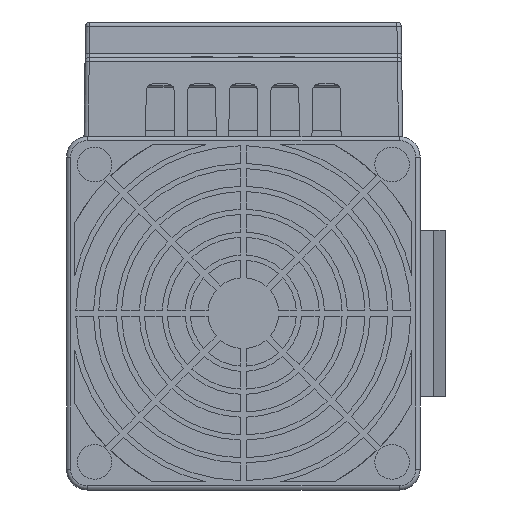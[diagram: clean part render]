
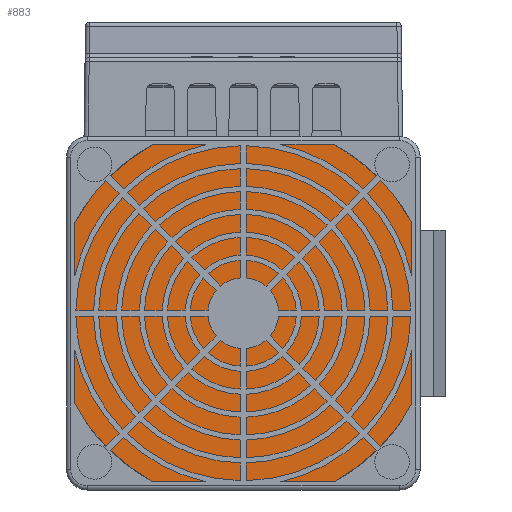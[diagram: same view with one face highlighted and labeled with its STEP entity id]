
A CAD part, front view. The second image highlights one B-rep face of the part: STEP entity #883.
In plain terms, the highlighted planar face has unit normal (0, -1, 0).
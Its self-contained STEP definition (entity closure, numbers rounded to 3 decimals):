
#883=ADVANCED_FACE('',(#2814),#2035,.F.);
#2035=PLANE('',#23053);
#2814=FACE_OUTER_BOUND('',#3930,.T.);
#3930=EDGE_LOOP('',(#10444,#10445,#10446,#10447,#10448,#10449,#10450,#10451));
#5260=LINE('',#30933,#7852);
#5261=LINE('',#30937,#7853);
#5262=LINE('',#30941,#7854);
#5263=LINE('',#30945,#7855);
#7852=VECTOR('',#24816,1.);
#7853=VECTOR('',#24819,1.);
#7854=VECTOR('',#24822,1.);
#7855=VECTOR('',#24825,1.);
#10444=ORIENTED_EDGE('',*,*,#19231,.F.);
#10445=ORIENTED_EDGE('',*,*,#19232,.F.);
#10446=ORIENTED_EDGE('',*,*,#19233,.F.);
#10447=ORIENTED_EDGE('',*,*,#19234,.F.);
#10448=ORIENTED_EDGE('',*,*,#19235,.F.);
#10449=ORIENTED_EDGE('',*,*,#19236,.F.);
#10450=ORIENTED_EDGE('',*,*,#19237,.F.);
#10451=ORIENTED_EDGE('',*,*,#19238,.F.);
#17054=VERTEX_POINT('',#30931);
#17055=VERTEX_POINT('',#30932);
#17056=VERTEX_POINT('',#30934);
#17057=VERTEX_POINT('',#30936);
#17058=VERTEX_POINT('',#30938);
#17059=VERTEX_POINT('',#30940);
#17060=VERTEX_POINT('',#30942);
#17061=VERTEX_POINT('',#30944);
#19231=EDGE_CURVE('',#17054,#17055,#22536,.T.);
#19232=EDGE_CURVE('',#17056,#17054,#5260,.T.);
#19233=EDGE_CURVE('',#17057,#17056,#22537,.T.);
#19234=EDGE_CURVE('',#17058,#17057,#5261,.T.);
#19235=EDGE_CURVE('',#17059,#17058,#22538,.T.);
#19236=EDGE_CURVE('',#17060,#17059,#5262,.T.);
#19237=EDGE_CURVE('',#17061,#17060,#22539,.T.);
#19238=EDGE_CURVE('',#17055,#17061,#5263,.T.);
#22536=CIRCLE('',#23049,46.);
#22537=CIRCLE('',#23050,46.);
#22538=CIRCLE('',#23051,46.);
#22539=CIRCLE('',#23052,46.);
#23049=AXIS2_PLACEMENT_3D('',#30930,#24814,#24815);
#23050=AXIS2_PLACEMENT_3D('',#30935,#24817,#24818);
#23051=AXIS2_PLACEMENT_3D('',#30939,#24820,#24821);
#23052=AXIS2_PLACEMENT_3D('',#30943,#24823,#24824);
#23053=AXIS2_PLACEMENT_3D('',#30946,#24826,#24827);
#24814=DIRECTION('',(0.,1.,0.));
#24815=DIRECTION('',(1.,0.,0.));
#24816=DIRECTION('',(-1.,0.,0.));
#24817=DIRECTION('',(0.,1.,0.));
#24818=DIRECTION('',(1.,0.,0.));
#24819=DIRECTION('',(0.,0.,-1.));
#24820=DIRECTION('',(0.,1.,0.));
#24821=DIRECTION('',(1.,0.,0.));
#24822=DIRECTION('',(1.,0.,0.));
#24823=DIRECTION('',(0.,1.,0.));
#24824=DIRECTION('',(1.,0.,0.));
#24825=DIRECTION('',(0.,0.,1.));
#24826=DIRECTION('',(0.,1.,0.));
#24827=DIRECTION('',(0.,0.,1.));
#30930=CARTESIAN_POINT('',(390.,-70.65,-64.7));
#30931=CARTESIAN_POINT('',(368.188,-70.65,-105.2));
#30932=CARTESIAN_POINT('',(349.5,-70.65,-86.512));
#30933=CARTESIAN_POINT('',(380.945,-70.65,-105.2));
#30934=CARTESIAN_POINT('',(411.812,-70.65,-105.2));
#30935=CARTESIAN_POINT('',(390.,-70.65,-64.7));
#30936=CARTESIAN_POINT('',(430.5,-70.65,-86.512));
#30937=CARTESIAN_POINT('',(430.5,-70.65,-73.755));
#30938=CARTESIAN_POINT('',(430.5,-70.65,-42.888));
#30939=CARTESIAN_POINT('',(390.,-70.65,-64.7));
#30940=CARTESIAN_POINT('',(411.812,-70.65,-24.2));
#30941=CARTESIAN_POINT('',(380.945,-70.65,-24.2));
#30942=CARTESIAN_POINT('',(368.188,-70.65,-24.2));
#30943=CARTESIAN_POINT('',(390.,-70.65,-64.7));
#30944=CARTESIAN_POINT('',(349.5,-70.65,-42.888));
#30945=CARTESIAN_POINT('',(349.5,-70.65,-86.512));
#30946=CARTESIAN_POINT('',(390.,-70.65,-64.7));
